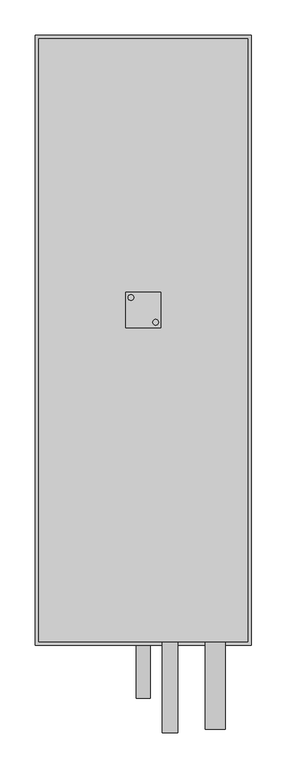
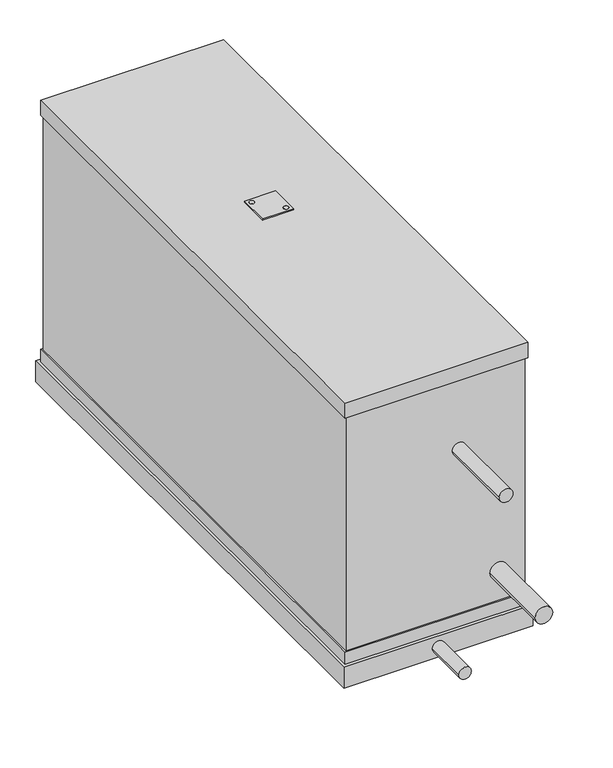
"""IFC4 building model written with IfcOpenShell, lengths in millimetres: proxy geometry, KORF_Воздухоохладитель_Фреоновый_FLO_Левый : FLO 70-40."""

from ifc_helpers import new_model, si_unit, point, frame, frame_2d, origin, place, context, project, spatial, polyline, circle_curve, trimmed, segment, composite_curve, outline, extrude, faceted_brep, source, transform, mapped, element, save


def mechanical_equipment_40f2264b(model_context):
    return source(origin(), model_context, "Body", "SolidModel", [
        extrude(outline(composite_curve([segment(trimmed(circle_curve(frame_2d((170.5727066, -17.5745746)), 4.0), [point((174.5727066, -17.5745746))], [point((166.5727066, -17.5745746))], False, "CARTESIAN"), True, "CONTINUOUS"), segment(trimmed(circle_curve(frame_2d((170.5727066, -17.5745746)), 4.0), [point((166.5727066, -17.5745746))], [point((174.5727066, -17.5745746))], False, "CARTESIAN"), True, "CONTINUOUS")], self_intersect=False)), frame((0.0, 0.0, 226.0), z_axis=(0.0, 0.0, 1.0), x_axis=(1.0, 0.0, 0.0)), (0.0, 0.0, 1.0), 2.0),
        extrude(outline(composite_curve([segment(trimmed(circle_curve(frame_2d((135.4272934, 17.5745746)), 4.0), [point((131.4272934, 17.5745746))], [point((139.4272934, 17.5745746))], False, "CARTESIAN"), True, "CONTINUOUS"), segment(trimmed(circle_curve(frame_2d((135.4272934, 17.5745746)), 4.0), [point((139.4272934, 17.5745746))], [point((131.4272934, 17.5745746))], False, "CARTESIAN"), True, "CONTINUOUS")], self_intersect=False)), frame((0.0, 0.0, 226.0), z_axis=(0.0, 0.0, 1.0), x_axis=(1.0, 0.0, 0.0)), (0.0, 0.0, 1.0), 2.0),
        extrude(outline(polyline([(128.0, -25.0), (128.0, 25.0), (178.0, 25.0), (178.0, -25.0), (128.0, -25.0)]), holes=[composite_curve([segment(trimmed(circle_curve(frame_2d((170.5727066, -17.5745746)), 4.0), [point((174.5727066, -17.5745746))], [point((166.5727066, -17.5745746))], True, "CARTESIAN"), True, "CONTINUOUS"), segment(trimmed(circle_curve(frame_2d((170.5727066, -17.5745746)), 4.0), [point((166.5727066, -17.5745746))], [point((174.5727066, -17.5745746))], True, "CARTESIAN"), True, "CONTINUOUS")], self_intersect=False), composite_curve([segment(trimmed(circle_curve(frame_2d((135.4272934, 17.5745746)), 4.0), [point((131.4272934, 17.5745746))], [point((139.4272934, 17.5745746))], True, "CARTESIAN"), True, "CONTINUOUS"), segment(trimmed(circle_curve(frame_2d((135.4272934, 17.5745746)), 4.0), [point((139.4272934, 17.5745746))], [point((131.4272934, 17.5745746))], True, "CARTESIAN"), True, "CONTINUOUS")], self_intersect=False)]), frame((0.0, 0.0, 226.0), z_axis=(0.0, 0.0, 1.0), x_axis=(1.0, 0.0, 0.0)), (0.0, 0.0, 1.0), 2.0),
        faceted_brep([(306.0, -475.0, -221.0), (306.0, -475.0, -257.0), (306.0, 389.0, -257.0), (306.0, 389.0, -221.0), (0.0, -475.0, -221.0), (0.0, 389.0, -221.0), (0.0, 389.0, -257.0), (0.0, -475.0, -257.0), (301.0, 384.0, -221.0), (301.0, -470.0, -221.0), (5.0, -470.0, -221.0), (5.0, 384.0, -221.0), (298.0, -467.0, 200.0), (298.0, -467.0, -200.0), (298.0, -350.0, -200.0), (298.0, 350.0, -200.0), (298.0, 381.0, -200.0), (298.0, 381.0, 200.0), (298.0, 350.0, 200.0), (298.0, -350.0, 200.0), (8.0, 381.0, 200.0), (8.0, 381.0, -200.0), (8.0, 350.0, -200.0), (8.0, -350.0, -200.0), (8.0, -467.0, -200.0), (8.0, -467.0, 200.0), (8.0, -350.0, 200.0), (8.0, 350.0, 200.0), (301.0, -470.0, 200.0), (301.0, 384.0, 200.0), (301.0, 384.0, 226.0), (301.0, -470.0, 226.0), (301.0, -470.0, -200.0), (301.0, 384.0, -200.0), (5.0, -470.0, 200.0), (5.0, -470.0, 226.0), (5.0, 384.0, 226.0), (5.0, 384.0, 200.0), (5.0, -470.0, -200.0), (5.0, 384.0, -200.0)], [[[0, 1, 2, 3]], [[4, 5, 6, 7]], [[1, 0, 4, 7]], [[2, 1, 7, 6]], [[3, 2, 6, 5]], [[0, 3, 5, 4], [8, 9, 10, 11]], [[12, 13, 14, 15, 16, 17, 18, 19]], [[20, 21, 22, 23, 24, 25, 26, 27]], [[13, 12, 25, 24]], [[17, 16, 21, 20]], [[28, 29, 30, 31]], [[32, 9, 8, 33]], [[34, 35, 36, 37]], [[38, 39, 11, 10]], [[29, 28, 34, 37], [12, 19, 18, 17, 20, 27, 26, 25]], [[30, 29, 37, 36]], [[31, 30, 36, 35]], [[28, 31, 35, 34]], [[9, 32, 38, 10]], [[33, 8, 11, 39]], [[32, 33, 39, 38], [14, 13, 24, 23, 22, 21, 16, 15]]]),
        extrude(outline(composite_curve([segment(trimmed(circle_curve(frame_2d((-149.0, 255.0)), 14.285), [point((-149.0, 240.715))], [point((-149.0, 269.285))], False, "CARTESIAN"), True, "CONTINUOUS"), segment(trimmed(circle_curve(frame_2d((-149.0, 255.0)), 14.285), [point((-149.0, 269.285))], [point((-149.0, 240.715))], False, "CARTESIAN"), True, "CONTINUOUS")], self_intersect=False)), frame((0.0, -594.0, 0.0), z_axis=(0.0, 1.0, 0.0), x_axis=(0.0, 0.0, 1.0)), (0.0, 0.0, 1.0), 127.0),
        extrude(outline(composite_curve([segment(trimmed(circle_curve(frame_2d((81.0, 191.0)), 11.11), [point((81.0, 179.89))], [point((81.0, 202.11))], False, "CARTESIAN"), True, "CONTINUOUS"), segment(trimmed(circle_curve(frame_2d((81.0, 191.0)), 11.11), [point((81.0, 202.11))], [point((81.0, 179.89))], False, "CARTESIAN"), True, "CONTINUOUS")], self_intersect=False)), frame((0.0, -599.0, 0.0), z_axis=(0.0, 1.0, 0.0), x_axis=(0.0, 0.0, 1.0)), (0.0, 0.0, 1.0), 132.0),
        extrude(outline(composite_curve([segment(trimmed(circle_curve(frame_2d((-239.0, 153.0)), 10.0), [point((-239.0, 143.0))], [point((-239.0, 163.0))], False, "CARTESIAN"), True, "CONTINUOUS"), segment(trimmed(circle_curve(frame_2d((-239.0, 153.0)), 10.0), [point((-239.0, 163.0))], [point((-239.0, 143.0))], False, "CARTESIAN"), True, "CONTINUOUS")], self_intersect=False)), frame((0.0, -550.0, 0.0), z_axis=(0.0, 1.0, 0.0), x_axis=(0.0, 0.0, 1.0)), (0.0, 0.0, 1.0), 75.0),
    ])


if __name__ == "__main__":
    model = new_model("IFC4")
    model_context = context("Model", 3, world=origin())
    ifc_project = project(units=[si_unit("LENGTHUNIT", "METRE", prefix="MILLI")], contexts=[model_context])
    site = spatial("IfcSite", under=ifc_project)
    building = spatial("IfcBuilding", under=site)
    placement = place(None, origin())
    mechanical_equipment_shape = mechanical_equipment_40f2264b(model_context)
    element("IfcBuildingElementProxy", 1, Name="KORF_Воздухоохладитель_Фреоновый_FLO_Левый : FLO 70-40", ObjectType="KORF_Воздухоохладитель_Фреоновый_FLO_Левый : FLO 70-40", at=placement, inside=building, context=model_context, shape_type="MappedRepresentation", body=[
        mapped(mechanical_equipment_shape, transform((0.0, 0.0, 0.0), x_axis=(1.0, 0.0, 0.0), y_axis=(0.0, 1.0, 0.0), z_axis=(0.0, 0.0, 1.0))),
    ])
    save(model, "model.ifc")
